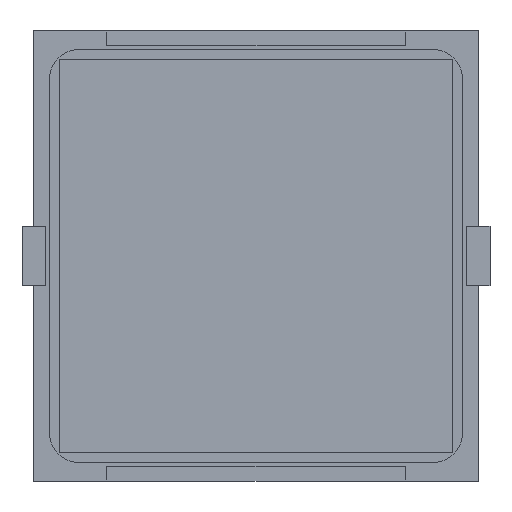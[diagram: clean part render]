
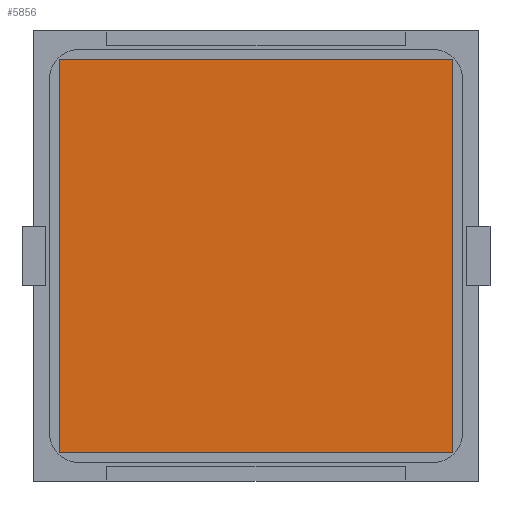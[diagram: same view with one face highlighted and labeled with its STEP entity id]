
A CAD part, front view. The second image highlights one B-rep face of the part: STEP entity #5856.
In plain terms, the highlighted planar face has unit normal (0, -1, 0).
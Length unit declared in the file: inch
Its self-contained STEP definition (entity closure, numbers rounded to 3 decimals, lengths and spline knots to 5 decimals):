
#316 = ORIENTED_EDGE ( 'NONE', *, *, #7984, .F. ) ;
#649 = VERTEX_POINT ( 'NONE', #7761 ) ;
#670 = CARTESIAN_POINT ( 'NONE',  ( -0.64961, -0.005, -0.64961 ) ) ;
#1508 = AXIS2_PLACEMENT_3D ( 'NONE', #3851, #2829, #7079 ) ;
#1732 = CARTESIAN_POINT ( 'NONE',  ( -0.64961, -0.005, -0.64961 ) ) ;
#2032 = EDGE_LOOP ( 'NONE', ( #316, #5899, #8179, #3055 ) ) ;
#2039 = VECTOR ( 'NONE', #8863, 39.37008 ) ;
#2455 = CARTESIAN_POINT ( 'NONE',  ( -0.64961, -0.005, -0.64961 ) ) ;
#2829 = DIRECTION ( 'NONE',  ( 0., 1., 0. ) ) ;
#3055 = ORIENTED_EDGE ( 'NONE', *, *, #8962, .F. ) ;
#3371 = FACE_OUTER_BOUND ( 'NONE', #2032, .T. ) ;
#3851 = CARTESIAN_POINT ( 'NONE',  ( -0.64961, -0.005, 0.64961 ) ) ;
#3859 = VECTOR ( 'NONE', #4051, 39.37008 ) ;
#3968 = EDGE_CURVE ( 'NONE', #649, #4365, #10579, .T. ) ;
#4051 = DIRECTION ( 'NONE',  ( 1., 0., 0. ) ) ;
#4083 = CARTESIAN_POINT ( 'NONE',  ( 0.64961, -0.005, 0.64961 ) ) ;
#4110 = VERTEX_POINT ( 'NONE', #8346 ) ;
#4365 = VERTEX_POINT ( 'NONE', #2455 ) ;
#4393 = LINE ( 'NONE', #4561, #6527 ) ;
#4561 = CARTESIAN_POINT ( 'NONE',  ( 0.64961, -0.005, -0.64961 ) ) ;
#5366 = DIRECTION ( 'NONE',  ( 0., 0., -1. ) ) ;
#5609 = CARTESIAN_POINT ( 'NONE',  ( -0.64961, -0.005, 0.64961 ) ) ;
#5818 = PLANE ( 'NONE',  #1508 ) ;
#5856 = ADVANCED_FACE ( 'NONE', ( #3371 ), #5818, .F. ) ;
#5899 = ORIENTED_EDGE ( 'NONE', *, *, #3968, .F. ) ;
#6527 = VECTOR ( 'NONE', #5366, 39.37008 ) ;
#7079 = DIRECTION ( 'NONE',  ( 0., 0., 1. ) ) ;
#7206 = VECTOR ( 'NONE', #7449, 39.37008 ) ;
#7449 = DIRECTION ( 'NONE',  ( 0., 0., 1. ) ) ;
#7761 = CARTESIAN_POINT ( 'NONE',  ( 0.64961, -0.005, -0.64961 ) ) ;
#7984 = EDGE_CURVE ( 'NONE', #4365, #4110, #8200, .T. ) ;
#8039 = LINE ( 'NONE', #5609, #3859 ) ;
#8179 = ORIENTED_EDGE ( 'NONE', *, *, #10652, .F. ) ;
#8200 = LINE ( 'NONE', #1732, #7206 ) ;
#8346 = CARTESIAN_POINT ( 'NONE',  ( -0.64961, -0.005, 0.64961 ) ) ;
#8863 = DIRECTION ( 'NONE',  ( -1., 0., 0. ) ) ;
#8962 = EDGE_CURVE ( 'NONE', #4110, #9779, #8039, .T. ) ;
#9779 = VERTEX_POINT ( 'NONE', #4083 ) ;
#10579 = LINE ( 'NONE', #670, #2039 ) ;
#10652 = EDGE_CURVE ( 'NONE', #9779, #649, #4393, .T. ) ;
